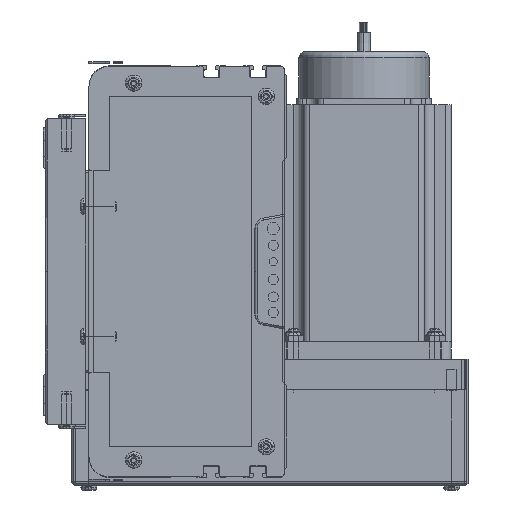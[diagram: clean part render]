
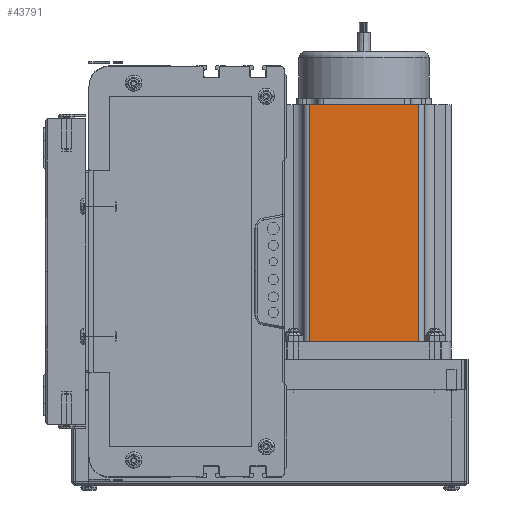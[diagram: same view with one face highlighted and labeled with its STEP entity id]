
A CAD part, left-side view. The second image highlights one B-rep face of the part: STEP entity #43791.
In plain terms, the highlighted planar face has unit normal (-1, 0, 0) as drawn and (0, -1, 0) by its records, which use the part's own axes.
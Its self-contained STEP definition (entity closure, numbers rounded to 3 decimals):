
#38548 = VERTEX_POINT ( 'NONE', #160254 ) ;
#38797 = VERTEX_POINT ( 'NONE', #161074 ) ;
#40367 = EDGE_LOOP ( 'NONE', ( #43474, #43586, #40887, #40432 ) ) ;
#40432 = ORIENTED_EDGE ( 'NONE', *, *, #40853, .T. ) ;
#40790 = EDGE_CURVE ( 'NONE', #40930, #42925, #124250, .T. ) ;
#40851 = EDGE_CURVE ( 'NONE', #38548, #38797, #123987, .T. ) ;
#40853 = EDGE_CURVE ( 'NONE', #40930, #38548, #123913, .T. ) ;
#40887 = ORIENTED_EDGE ( 'NONE', *, *, #40790, .F. ) ;
#40930 = VERTEX_POINT ( 'NONE', #124499 ) ;
#42925 = VERTEX_POINT ( 'NONE', #131229 ) ;
#43474 = ORIENTED_EDGE ( 'NONE', *, *, #40851, .T. ) ;
#43586 = ORIENTED_EDGE ( 'NONE', *, *, #43639, .T. ) ;
#43639 = EDGE_CURVE ( 'NONE', #38797, #42925, #134587, .T. ) ;
#43791 = ADVANCED_FACE ( 'NONE', ( #134876 ), #134834, .F. ) ;
#123912 = CARTESIAN_POINT ( 'NONE',  ( 16.16, 0., 116.5 ) ) ;
#123913 = LINE ( 'NONE', #123912, #124100 ) ;
#123952 = CARTESIAN_POINT ( 'NONE',  ( 0., 0., 0. ) ) ;
#123987 = LINE ( 'NONE', #123952, #124105 ) ;
#124099 = DIRECTION ( 'NONE',  ( 0., 0., -1. ) ) ;
#124100 = VECTOR ( 'NONE', #124099, 1000. ) ;
#124104 = DIRECTION ( 'NONE',  ( 1., 0., 0. ) ) ;
#124105 = VECTOR ( 'NONE', #124104, 1000. ) ;
#124203 = CARTESIAN_POINT ( 'NONE',  ( 0., 0., 116.5 ) ) ;
#124250 = LINE ( 'NONE', #124203, #124292 ) ;
#124291 = DIRECTION ( 'NONE',  ( 1., 0., 0. ) ) ;
#124292 = VECTOR ( 'NONE', #124291, 1000. ) ;
#124499 = CARTESIAN_POINT ( 'NONE',  ( 16.16, 0., 116.5 ) ) ;
#131229 = CARTESIAN_POINT ( 'NONE',  ( 69.74, 0., 116.5 ) ) ;
#134538 = DIRECTION ( 'NONE',  ( 0., 0., 1. ) ) ;
#134587 = LINE ( 'NONE', #134593, #134596 ) ;
#134593 = CARTESIAN_POINT ( 'NONE',  ( 69.74, 0., 116.5 ) ) ;
#134596 = VECTOR ( 'NONE', #134538, 1000. ) ;
#134834 = PLANE ( 'NONE',  #134841 ) ;
#134841 = AXIS2_PLACEMENT_3D ( 'NONE', #134871, #134905, #134952 ) ;
#134871 = CARTESIAN_POINT ( 'NONE',  ( 0., 0., 116.5 ) ) ;
#134876 = FACE_OUTER_BOUND ( 'NONE', #40367, .T. ) ;
#134905 = DIRECTION ( 'NONE',  ( 0., 1., 0. ) ) ;
#134952 = DIRECTION ( 'NONE',  ( 0., 0., 1. ) ) ;
#160254 = CARTESIAN_POINT ( 'NONE',  ( 16.16, 0., 0. ) ) ;
#161074 = CARTESIAN_POINT ( 'NONE',  ( 69.74, 0., 0. ) ) ;
